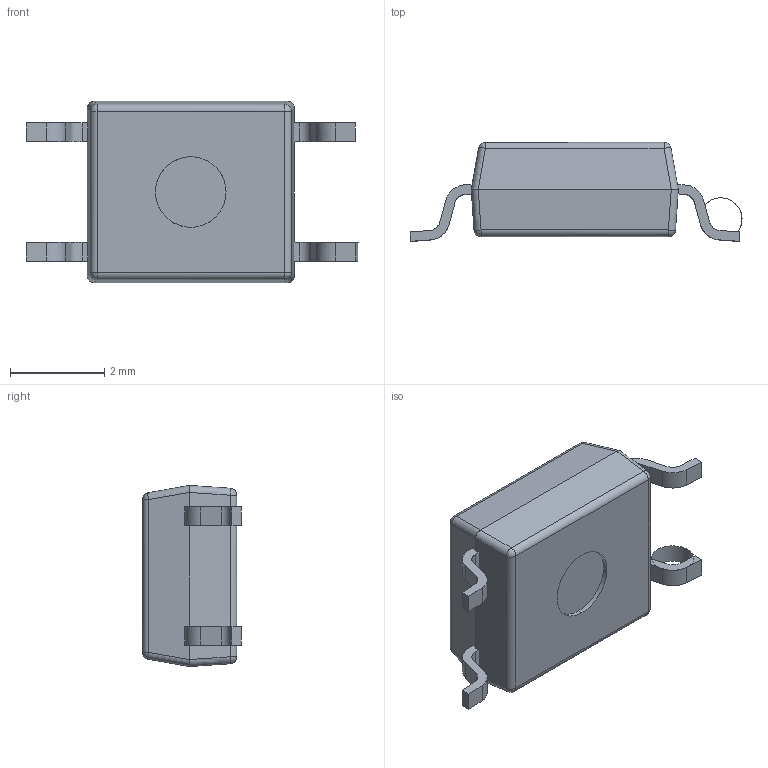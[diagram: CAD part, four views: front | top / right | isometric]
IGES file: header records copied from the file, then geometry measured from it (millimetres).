
Global section: file name: SOP4; native system: Autodesk Inventor 2016; preprocessor: unknown; author: ElvinLai; date: 20181011.151006; units: millimetre
Bounding box: 7.05 x 2.1 x 3.85 mm (x, y, z)
Surface area: 71 mm2 (no closed solid volume)
Topology: 0 solids, 0 shells, 92 faces, 506 edges, 504 vertices
Faces by surface type: bspline 48, revolution 44
